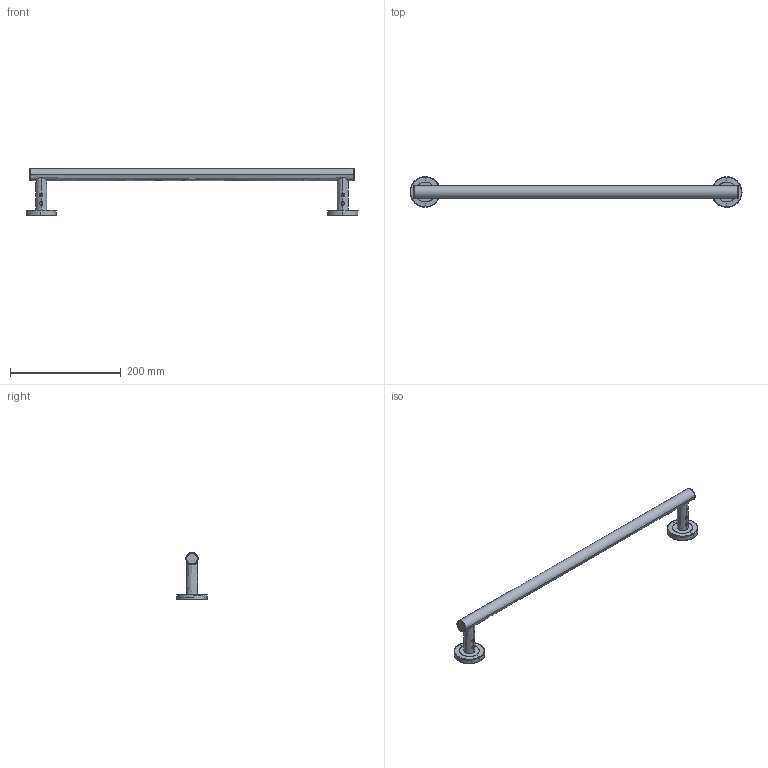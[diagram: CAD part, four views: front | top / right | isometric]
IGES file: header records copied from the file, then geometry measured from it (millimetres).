
Start section: SolidWorks IGES file using analytic representation for surfaces
Global section: file name: G:\Projects\New project\For Marketing\689-Archibest\235##65.IGS; native system: SolidWorks 2016; preprocessor: SolidWorks 2016; author: merry; date: 190411.165116; units: millimetre
Bounding box: 598.99 x 54.99 x 84.38 mm (x, y, z)
Surface area: 70249.2 mm2 (no closed solid volume)
Topology: 0 solids, 0 shells, 400 faces, 5656 edges, 5656 vertices
Faces by surface type: revolution 202, bspline 198
